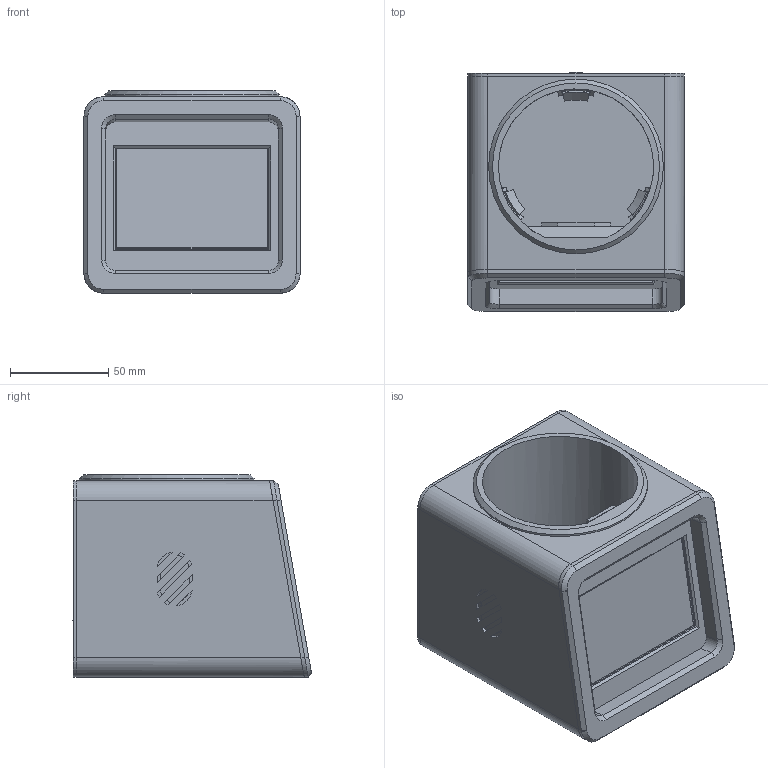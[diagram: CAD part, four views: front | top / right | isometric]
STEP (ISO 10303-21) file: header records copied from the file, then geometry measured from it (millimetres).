
FILE_DESCRIPTION(/* description */ (''),/* implementation_level */ '2;1');
FILE_NAME(/* name */ '/Users/pedroruiz/Dropbox/3D/Products/PyTitano Planter/CAD/PyTitano Planty.step',/* time_stamp */ '2020-02-03T09:36:01-05:00',/* author */ (''),/* organization */ (''),/* preprocessor_version */ 'ST-DEVELOPER v18',/* originating_system */ 'Autodesk Translation Framework v8.12.0.6',/* authorisation */ '');
FILE_SCHEMA (('AUTOMOTIVE_DESIGN { 1 0 10303 214 3 1 1 }'));
Products named in the file (53): PyTitano Planty; electronics; PyPortal Titano rev C v7; PCB Component; Board; 1uF; 5.1K; microSD; EVQQ 6mm; ATSAMD51J20; FAN5333BSX; ALS-PT21; RED; WS2812B3535; JST PH 3; JST PH 4; 3.6V; 500mA; GD25Q64; ESP32_WROOM32; 7.5mm SPK; PAM8301; CON_MOLEX_2P; 74AHC1G125; ATECCX08; 3.5" TFT; 10K; BSS138; 10uH inductor; MBR0540; MM3Z24VT1G; USB_C_CUSB31-CFM2AX-01-X; 3923 Mini Oval Speaker v1; compy; frame; face; screen; cover; planter cup v8; cup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
Assembly tree (98 placements, depth 5):
  PyTitano Planty
    electronics
      PyPortal Titano rev C v7
        PCB Component
          Board
          1uF  x16
          5.1K  x27
          microSD
          EVQQ 6mm
          ATSAMD51J20
          FAN5333BSX  x2
          ALS-PT21
          RED
          WS2812B3535
          JST PH 3  x2
          JST PH 4
          3.6V  x2
          500mA
          GD25Q64
          ESP32_WROOM32
          7.5mm SPK
          PAM8301
          CON_MOLEX_2P
          74AHC1G125
          ATECCX08
          3.5" TFT
          10K
          BSS138
          10uH inductor
          MBR0540
          MM3Z24VT1G
          USB_C_CUSB31-CFM2AX-01-X
      3923 Mini Oval Speaker v1
    compy
      frame
      face
      screen
      cover
    planter cup v8
      cup
      bracket
      drip tray
      Adafruit STEMMA Soil Sensor v2
        PCB Component (1)
          Board (1)
          1K  x2
          RED_1
          10uF  x2
          MIC5225-3.3
          10K_1
          2N7002D
          STEMMA_I2C_RASMT
          ATSAMD10D14A
Bounding box: 110 x 121.71 x 103 mm (x, y, z)
Volume: 183050.9 mm3; surface area: 223898.9 mm2
Topology: 169 solids, 169 shells, 6167 faces, 16304 edges, 10489 vertices
Faces by surface type: plane 4582, cylinder 1316, sphere 87, bspline 76, cone 62, torus 44
Full cylindrical faces by diameter (mm): 0.3 x1, 0.483 x148, 0.5 x50, 0.65 x2, 1 x9, 1.2 x1, 1.6 x1, 2.4 x1, 2.54 x2, 3 x24, 6 x2, 13.2 x2, 15.2 x2, 79 x1, 82 x1, 83 x1, 87 x1, 89 x1, 90 x1
Entity records: 170334 total; most frequent: CARTESIAN_POINT 31262, ORIENTED_EDGE 28010, DIRECTION 27272, EDGE_CURVE 14005, LINE 11176, VECTOR 11176, VERTEX_POINT 9011, AXIS2_PLACEMENT_3D 8048
